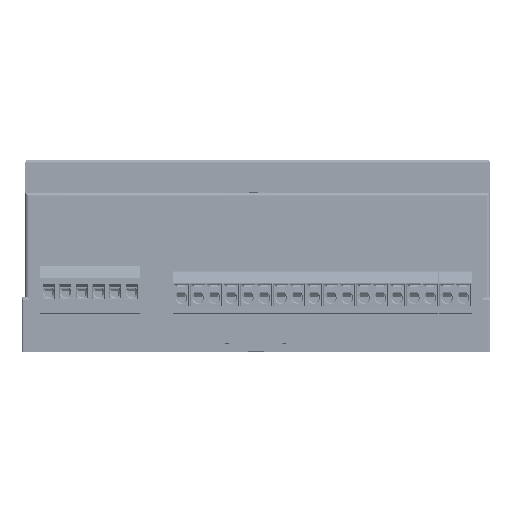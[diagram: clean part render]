
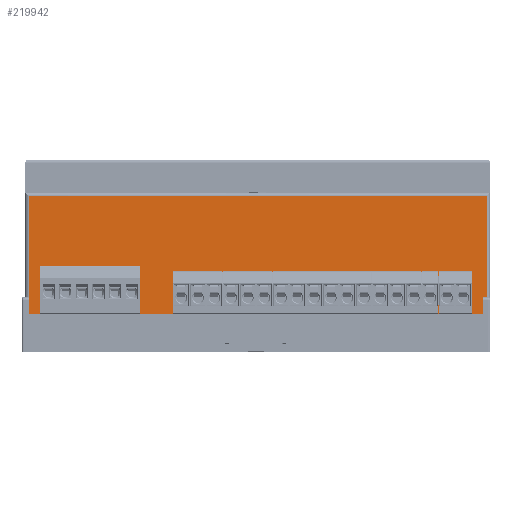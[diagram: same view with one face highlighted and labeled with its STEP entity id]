
A CAD part, top view. The second image highlights one B-rep face of the part: STEP entity #219942.
In plain terms, the highlighted planar face has unit normal (0, 0, 1).
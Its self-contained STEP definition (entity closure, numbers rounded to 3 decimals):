
#7740 = DIRECTION ( 'NONE',  ( 0.707, 0.707, 0. ) ) ;
#9843 = EDGE_CURVE ( 'NONE', #236902, #394766, #107946, .T. ) ;
#14002 = CARTESIAN_POINT ( 'NONE',  ( 140., -9., 0. ) ) ;
#23430 = VECTOR ( 'NONE', #7740, 1000. ) ;
#27045 = EDGE_CURVE ( 'NONE', #391829, #39609, #244741, .T. ) ;
#32370 = DIRECTION ( 'NONE',  ( 1., 0., 0. ) ) ;
#32902 = LINE ( 'NONE', #100894, #113163 ) ;
#38062 = CARTESIAN_POINT ( 'NONE',  ( 139., 30.5, 0. ) ) ;
#39609 = VERTEX_POINT ( 'NONE', #272757 ) ;
#39705 = CARTESIAN_POINT ( 'NONE',  ( 95., -5., 0. ) ) ;
#47689 = CARTESIAN_POINT ( 'NONE',  ( 1.5, -9., 0. ) ) ;
#54412 = ORIENTED_EDGE ( 'NONE', *, *, #285311, .T. ) ;
#58734 = LINE ( 'NONE', #140105, #240522 ) ;
#60429 = DIRECTION ( 'NONE',  ( -1., 0., 0. ) ) ;
#65041 = DIRECTION ( 'NONE',  ( 0., 0., -1. ) ) ;
#68475 = VERTEX_POINT ( 'NONE', #257172 ) ;
#68813 = ORIENTED_EDGE ( 'NONE', *, *, #88183, .T. ) ;
#76258 = DIRECTION ( 'NONE',  ( -1., 0., 0. ) ) ;
#80081 = VECTOR ( 'NONE', #254305, 1000. ) ;
#80416 = EDGE_CURVE ( 'NONE', #302238, #248885, #32902, .T. ) ;
#82474 = CARTESIAN_POINT ( 'NONE',  ( 1.5, -6.5, 0. ) ) ;
#82865 = DIRECTION ( 'NONE',  ( 1., 0., 0. ) ) ;
#88183 = EDGE_CURVE ( 'NONE', #39609, #302238, #366720, .T. ) ;
#97856 = PLANE ( 'NONE',  #372109 ) ;
#100894 = CARTESIAN_POINT ( 'NONE',  ( 139., 31.5, 0. ) ) ;
#102361 = DIRECTION ( 'NONE',  ( 0., 1., 0. ) ) ;
#107946 = LINE ( 'NONE', #194035, #370289 ) ;
#113163 = VECTOR ( 'NONE', #102361, 1000. ) ;
#126487 = LINE ( 'NONE', #129201, #297634 ) ;
#129201 = CARTESIAN_POINT ( 'NONE',  ( 1.5, -5., 0. ) ) ;
#133795 = ORIENTED_EDGE ( 'NONE', *, *, #197481, .F. ) ;
#134172 = CARTESIAN_POINT ( 'NONE',  ( 1.5, -9., 0. ) ) ;
#140105 = CARTESIAN_POINT ( 'NONE',  ( 1.5, -5., 0. ) ) ;
#143144 = VECTOR ( 'NONE', #384554, 1000. ) ;
#146560 = ORIENTED_EDGE ( 'NONE', *, *, #27045, .T. ) ;
#149023 = EDGE_CURVE ( 'NONE', #260338, #391829, #171129, .T. ) ;
#171129 = LINE ( 'NONE', #390462, #80081 ) ;
#172971 = DIRECTION ( 'NONE',  ( 0., -1., 0. ) ) ;
#179273 = CARTESIAN_POINT ( 'NONE',  ( 1.5, -5., 0. ) ) ;
#179656 = CARTESIAN_POINT ( 'NONE',  ( 138.5, -5., 0. ) ) ;
#179798 = LINE ( 'NONE', #386025, #351064 ) ;
#180747 = ORIENTED_EDGE ( 'NONE', *, *, #217269, .F. ) ;
#181091 = LINE ( 'NONE', #134172, #443333 ) ;
#182249 = ORIENTED_EDGE ( 'NONE', *, *, #414913, .F. ) ;
#183956 = ORIENTED_EDGE ( 'NONE', *, *, #9843, .T. ) ;
#187615 = VECTOR ( 'NONE', #384184, 1000. ) ;
#192316 = EDGE_CURVE ( 'NONE', #351951, #68475, #126487, .T. ) ;
#194035 = CARTESIAN_POINT ( 'NONE',  ( 1., 31.5, 0. ) ) ;
#197481 = EDGE_CURVE ( 'NONE', #232499, #351951, #289257, .T. ) ;
#212258 = ORIENTED_EDGE ( 'NONE', *, *, #396500, .T. ) ;
#217269 = EDGE_CURVE ( 'NONE', #260338, #232499, #179798, .T. ) ;
#219942 = ADVANCED_FACE ( 'NONE', ( #342996 ), #97856, .F. ) ;
#226342 = ORIENTED_EDGE ( 'NONE', *, *, #80416, .T. ) ;
#232499 = VERTEX_POINT ( 'NONE', #39705 ) ;
#236902 = VERTEX_POINT ( 'NONE', #438192 ) ;
#240522 = VECTOR ( 'NONE', #172971, 1000. ) ;
#244741 = LINE ( 'NONE', #179656, #143144 ) ;
#246684 = CARTESIAN_POINT ( 'NONE',  ( 0., 30.5, 0. ) ) ;
#248885 = VERTEX_POINT ( 'NONE', #38062 ) ;
#254305 = DIRECTION ( 'NONE',  ( 0.707, -0.707, 0. ) ) ;
#257172 = CARTESIAN_POINT ( 'NONE',  ( 3., -5., 0. ) ) ;
#260338 = VERTEX_POINT ( 'NONE', #398630 ) ;
#267531 = EDGE_CURVE ( 'NONE', #421080, #68475, #366004, .T. ) ;
#271678 = ORIENTED_EDGE ( 'NONE', *, *, #149023, .T. ) ;
#272757 = CARTESIAN_POINT ( 'NONE',  ( 138.5, -9., 0. ) ) ;
#285311 = EDGE_CURVE ( 'NONE', #248885, #236902, #339117, .T. ) ;
#286297 = VECTOR ( 'NONE', #82865, 1000. ) ;
#289257 = LINE ( 'NONE', #179273, #187615 ) ;
#290796 = VERTEX_POINT ( 'NONE', #47689 ) ;
#295770 = CARTESIAN_POINT ( 'NONE',  ( 138.5, -6.5, 0. ) ) ;
#297634 = VECTOR ( 'NONE', #60429, 1000. ) ;
#302238 = VERTEX_POINT ( 'NONE', #322940 ) ;
#304178 = DIRECTION ( 'NONE',  ( -1., 0., 0. ) ) ;
#322940 = CARTESIAN_POINT ( 'NONE',  ( 139., -9., 0. ) ) ;
#331597 = DIRECTION ( 'NONE',  ( 0., -1., 0. ) ) ;
#339117 = LINE ( 'NONE', #246684, #419269 ) ;
#342996 = FACE_OUTER_BOUND ( 'NONE', #381924, .T. ) ;
#343911 = ORIENTED_EDGE ( 'NONE', *, *, #192316, .F. ) ;
#351064 = VECTOR ( 'NONE', #420403, 1000. ) ;
#351951 = VERTEX_POINT ( 'NONE', #439705 ) ;
#366004 = LINE ( 'NONE', #417598, #23430 ) ;
#366720 = LINE ( 'NONE', #14002, #286297 ) ;
#370289 = VECTOR ( 'NONE', #331597, 1000. ) ;
#372109 = AXIS2_PLACEMENT_3D ( 'NONE', #440383, #65041, #304178 ) ;
#381924 = EDGE_LOOP ( 'NONE', ( #183956, #212258, #182249, #382560, #343911, #133795, #180747, #271678, #146560, #68813, #226342, #54412 ) ) ;
#382560 = ORIENTED_EDGE ( 'NONE', *, *, #267531, .T. ) ;
#384184 = DIRECTION ( 'NONE',  ( -1., 0., 0. ) ) ;
#384554 = DIRECTION ( 'NONE',  ( 0., -1., 0. ) ) ;
#386025 = CARTESIAN_POINT ( 'NONE',  ( 1.5, -5., 0. ) ) ;
#390462 = CARTESIAN_POINT ( 'NONE',  ( 137., -5., 0. ) ) ;
#391829 = VERTEX_POINT ( 'NONE', #295770 ) ;
#394766 = VERTEX_POINT ( 'NONE', #425137 ) ;
#396500 = EDGE_CURVE ( 'NONE', #394766, #290796, #181091, .T. ) ;
#398630 = CARTESIAN_POINT ( 'NONE',  ( 137., -5., 0. ) ) ;
#414913 = EDGE_CURVE ( 'NONE', #421080, #290796, #58734, .T. ) ;
#417598 = CARTESIAN_POINT ( 'NONE',  ( 1.5, -6.5, 0. ) ) ;
#419269 = VECTOR ( 'NONE', #76258, 1000. ) ;
#420403 = DIRECTION ( 'NONE',  ( -1., 0., 0. ) ) ;
#421080 = VERTEX_POINT ( 'NONE', #82474 ) ;
#425137 = CARTESIAN_POINT ( 'NONE',  ( 1., -9., 0. ) ) ;
#438192 = CARTESIAN_POINT ( 'NONE',  ( 1., 30.5, 0. ) ) ;
#439705 = CARTESIAN_POINT ( 'NONE',  ( 45., -5., 0. ) ) ;
#440383 = CARTESIAN_POINT ( 'NONE',  ( 0., 31.5, 0. ) ) ;
#443333 = VECTOR ( 'NONE', #32370, 1000. ) ;
